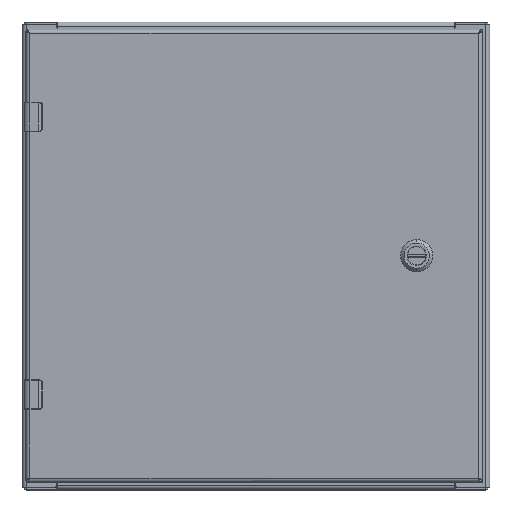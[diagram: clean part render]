
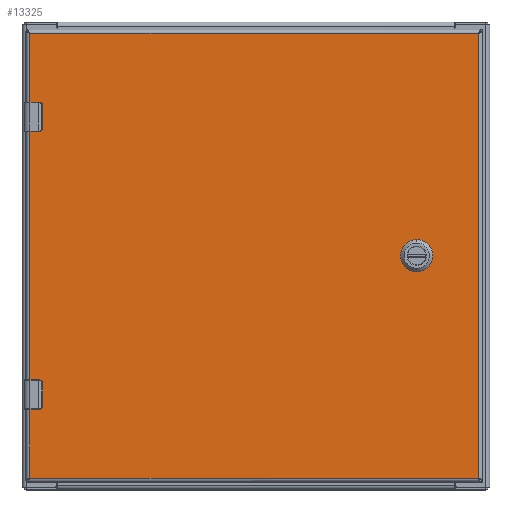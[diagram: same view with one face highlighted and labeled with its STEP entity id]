
A CAD part, top view. The second image highlights one B-rep face of the part: STEP entity #13325.
In plain terms, the highlighted planar face has unit normal (0, 0, 1).
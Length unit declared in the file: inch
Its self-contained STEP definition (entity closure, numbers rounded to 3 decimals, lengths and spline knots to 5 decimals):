
#10544=CARTESIAN_POINT('',(5.5625,0.,0.));
#10545=DIRECTION('',(0.,0.,1.));
#10546=DIRECTION('',(-0.448,0.894,0.));
#10547=AXIS2_PLACEMENT_3D('',#10544,#10545,#10546);
#10552=DIRECTION('',(0.,-1.,0.));
#10553=VECTOR('',#10552,0.39715);
#10554=CARTESIAN_POINT('',(5.1665,0.19858,0.));
#10555=LINE('',#10554,#10553);
#10559=CARTESIAN_POINT('',(5.5625,0.,0.));
#10560=DIRECTION('',(0.,0.,1.));
#10561=DIRECTION('',(-0.894,-0.448,0.));
#10562=AXIS2_PLACEMENT_3D('',#10559,#10560,#10561);
#10567=DIRECTION('',(1.,0.,0.));
#10568=VECTOR('',#10567,0.39715);
#10569=CARTESIAN_POINT('',(5.36392,-0.396,0.));
#10570=LINE('',#10569,#10568);
#10574=CARTESIAN_POINT('',(5.5625,0.,0.));
#10575=DIRECTION('',(0.,0.,1.));
#10576=DIRECTION('',(0.448,-0.894,0.));
#10577=AXIS2_PLACEMENT_3D('',#10574,#10575,#10576);
#10582=DIRECTION('',(0.,1.,0.));
#10583=VECTOR('',#10582,0.39715);
#10584=CARTESIAN_POINT('',(5.9585,-0.19858,0.));
#10585=LINE('',#10584,#10583);
#10589=CARTESIAN_POINT('',(5.5625,0.,0.));
#10590=DIRECTION('',(0.,0.,1.));
#10591=DIRECTION('',(0.894,0.448,0.));
#10592=AXIS2_PLACEMENT_3D('',#10589,#10590,#10591);
#10597=DIRECTION('',(-1.,0.,0.));
#10598=VECTOR('',#10597,0.39715);
#10599=CARTESIAN_POINT('',(5.76108,0.396,0.));
#10600=LINE('',#10599,#10598);
#10604=DIRECTION('',(1.,0.,0.));
#10605=VECTOR('',#10604,0.34892);
#10606=CARTESIAN_POINT('',(-7.6775,-5.095,0.));
#10607=LINE('',#10606,#10605);
#10611=DIRECTION('',(0.,1.,0.));
#10612=VECTOR('',#10611,0.63);
#10613=CARTESIAN_POINT('',(-7.29858,-5.065,0.));
#10614=LINE('',#10613,#10612);
#10618=DIRECTION('',(1.,0.,0.));
#10619=VECTOR('',#10618,0.34892);
#10620=CARTESIAN_POINT('',(-7.6775,-4.405,0.));
#10621=LINE('',#10620,#10619);
#10625=DIRECTION('',(1.,0.,0.));
#10626=VECTOR('',#10625,0.34892);
#10627=CARTESIAN_POINT('',(-7.6775,4.405,0.));
#10628=LINE('',#10627,#10626);
#10632=DIRECTION('',(0.,1.,0.));
#10633=VECTOR('',#10632,0.63);
#10634=CARTESIAN_POINT('',(-7.29858,4.435,0.));
#10635=LINE('',#10634,#10633);
#10639=DIRECTION('',(1.,0.,0.));
#10640=VECTOR('',#10639,0.34892);
#10641=CARTESIAN_POINT('',(-7.6775,5.095,0.));
#10642=LINE('',#10641,#10640);
#11101=CARTESIAN_POINT('',(-7.32858,-4.435,0.));
#11102=DIRECTION('',(0.,0.,-1.));
#11103=DIRECTION('',(0.,1.,0.));
#11104=AXIS2_PLACEMENT_3D('',#11101,#11102,#11103);
#11131=CARTESIAN_POINT('',(-7.32858,-5.065,0.));
#11132=DIRECTION('',(0.,0.,-1.));
#11133=DIRECTION('',(1.,0.,0.));
#11134=AXIS2_PLACEMENT_3D('',#11131,#11132,#11133);
#11184=DIRECTION('',(0.,1.,0.));
#11185=VECTOR('',#11184,8.81);
#11186=CARTESIAN_POINT('',(-7.6775,-4.405,0.));
#11187=LINE('',#11186,#11185);
#11213=DIRECTION('',(0.,1.,0.));
#11214=VECTOR('',#11213,2.52);
#11215=CARTESIAN_POINT('',(-7.6775,5.095,0.));
#11216=LINE('',#11215,#11214);
#11272=DIRECTION('',(0.,1.,0.));
#11273=VECTOR('',#11272,2.52);
#11274=CARTESIAN_POINT('',(-7.6775,-7.615,0.));
#11275=LINE('',#11274,#11273);
#11935=CARTESIAN_POINT('',(-7.32858,4.435,0.));
#11936=DIRECTION('',(0.,0.,-1.));
#11937=DIRECTION('',(1.,0.,0.));
#11938=AXIS2_PLACEMENT_3D('',#11935,#11936,#11937);
#11965=CARTESIAN_POINT('',(-7.32858,5.065,0.));
#11966=DIRECTION('',(0.,0.,-1.));
#11967=DIRECTION('',(0.,1.,0.));
#11968=AXIS2_PLACEMENT_3D('',#11965,#11966,#11967);
#12629=DIRECTION('',(-1.,0.,0.));
#12630=VECTOR('',#12629,15.355);
#12631=CARTESIAN_POINT('',(7.6775,-7.615,0.));
#12632=LINE('',#12631,#12630);
#12685=DIRECTION('',(0.,-1.,0.));
#12686=VECTOR('',#12685,15.23);
#12687=CARTESIAN_POINT('',(7.6775,7.615,0.));
#12688=LINE('',#12687,#12686);
#12830=DIRECTION('',(1.,0.,0.));
#12831=VECTOR('',#12830,15.355);
#12832=CARTESIAN_POINT('',(-7.6775,7.615,0.));
#12833=LINE('',#12832,#12831);
#12900=CARTESIAN_POINT('',(7.6775,7.615,0.));
#12901=CARTESIAN_POINT('',(7.6775,-7.615,0.));
#12902=VERTEX_POINT('',#12900);
#12903=VERTEX_POINT('',#12901);
#12988=CARTESIAN_POINT('',(5.36392,0.396,0.));
#12989=CARTESIAN_POINT('',(5.1665,0.19858,0.));
#12990=VERTEX_POINT('',#12988);
#12991=VERTEX_POINT('',#12989);
#12992=CARTESIAN_POINT('',(5.1665,-0.19858,0.));
#12993=VERTEX_POINT('',#12992);
#12994=CARTESIAN_POINT('',(5.36392,-0.396,0.));
#12995=VERTEX_POINT('',#12994);
#12996=CARTESIAN_POINT('',(5.76108,-0.396,0.));
#12997=VERTEX_POINT('',#12996);
#12998=CARTESIAN_POINT('',(5.9585,-0.19858,0.));
#12999=VERTEX_POINT('',#12998);
#13000=CARTESIAN_POINT('',(5.9585,0.19858,0.));
#13001=VERTEX_POINT('',#13000);
#13002=CARTESIAN_POINT('',(5.76108,0.396,0.));
#13003=VERTEX_POINT('',#13002);
#13093=CARTESIAN_POINT('',(-7.6775,7.615,0.));
#13095=VERTEX_POINT('',#13093);
#13100=CARTESIAN_POINT('',(-7.6775,-7.615,0.));
#13102=VERTEX_POINT('',#13100);
#13172=CARTESIAN_POINT('',(-7.6775,4.405,0.));
#13174=VERTEX_POINT('',#13172);
#13176=CARTESIAN_POINT('',(-7.6775,5.095,0.));
#13178=VERTEX_POINT('',#13176);
#13188=CARTESIAN_POINT('',(-7.6775,-5.095,0.));
#13190=VERTEX_POINT('',#13188);
#13192=CARTESIAN_POINT('',(-7.6775,-4.405,0.));
#13194=VERTEX_POINT('',#13192);
#13204=CARTESIAN_POINT('',(-7.32858,5.095,0.));
#13206=VERTEX_POINT('',#13204);
#13208=CARTESIAN_POINT('',(-7.29858,5.065,0.));
#13210=VERTEX_POINT('',#13208);
#13212=CARTESIAN_POINT('',(-7.29858,4.435,0.));
#13214=VERTEX_POINT('',#13212);
#13216=CARTESIAN_POINT('',(-7.32858,4.405,0.));
#13218=VERTEX_POINT('',#13216);
#13236=CARTESIAN_POINT('',(-7.32858,-4.405,0.));
#13238=VERTEX_POINT('',#13236);
#13240=CARTESIAN_POINT('',(-7.29858,-4.435,0.));
#13242=VERTEX_POINT('',#13240);
#13244=CARTESIAN_POINT('',(-7.29858,-5.065,0.));
#13246=VERTEX_POINT('',#13244);
#13248=CARTESIAN_POINT('',(-7.32858,-5.095,0.));
#13250=VERTEX_POINT('',#13248);
#13268=CARTESIAN_POINT('',(0.,0.,0.));
#13269=DIRECTION('',(0.,0.,-1.));
#13270=DIRECTION('',(1.,0.,0.));
#13271=AXIS2_PLACEMENT_3D('',#13268,#13269,#13270);
#13272=PLANE('',#13271);
#13274=ORIENTED_EDGE('',*,*,#13273,.T.);
#13276=ORIENTED_EDGE('',*,*,#13275,.T.);
#13278=ORIENTED_EDGE('',*,*,#13277,.T.);
#13280=ORIENTED_EDGE('',*,*,#13279,.F.);
#13282=ORIENTED_EDGE('',*,*,#13281,.T.);
#13284=ORIENTED_EDGE('',*,*,#13283,.F.);
#13286=ORIENTED_EDGE('',*,*,#13285,.F.);
#13288=ORIENTED_EDGE('',*,*,#13287,.T.);
#13290=ORIENTED_EDGE('',*,*,#13289,.T.);
#13292=ORIENTED_EDGE('',*,*,#13291,.F.);
#13294=ORIENTED_EDGE('',*,*,#13293,.T.);
#13296=ORIENTED_EDGE('',*,*,#13295,.F.);
#13298=ORIENTED_EDGE('',*,*,#13297,.F.);
#13300=ORIENTED_EDGE('',*,*,#13299,.T.);
#13302=ORIENTED_EDGE('',*,*,#13301,.T.);
#13304=ORIENTED_EDGE('',*,*,#13303,.T.);
#13305=EDGE_LOOP('',(#13274,#13276,#13278,#13280,#13282,#13284,#13286,#13288,
#13290,#13292,#13294,#13296,#13298,#13300,#13302,#13304));
#13306=FACE_OUTER_BOUND('',#13305,.F.);
#13308=ORIENTED_EDGE('',*,*,#13307,.T.);
#13310=ORIENTED_EDGE('',*,*,#13309,.T.);
#13312=ORIENTED_EDGE('',*,*,#13311,.T.);
#13314=ORIENTED_EDGE('',*,*,#13313,.T.);
#13316=ORIENTED_EDGE('',*,*,#13315,.T.);
#13318=ORIENTED_EDGE('',*,*,#13317,.T.);
#13320=ORIENTED_EDGE('',*,*,#13319,.T.);
#13322=ORIENTED_EDGE('',*,*,#13321,.T.);
#13323=EDGE_LOOP('',(#13308,#13310,#13312,#13314,#13316,#13318,#13320,#13322));
#13324=FACE_BOUND('',#13323,.F.);
#10548=CIRCLE('',#10547,0.443);
#10563=CIRCLE('',#10562,0.443);
#10578=CIRCLE('',#10577,0.443);
#10593=CIRCLE('',#10592,0.443);
#11105=CIRCLE('',#11104,0.03);
#11135=CIRCLE('',#11134,0.03);
#11939=CIRCLE('',#11938,0.03);
#11969=CIRCLE('',#11968,0.03);
#13273=EDGE_CURVE('',#12903,#13102,#12632,.T.);
#13275=EDGE_CURVE('',#13102,#13190,#11275,.T.);
#13277=EDGE_CURVE('',#13190,#13250,#10607,.T.);
#13279=EDGE_CURVE('',#13246,#13250,#11135,.T.);
#13281=EDGE_CURVE('',#13246,#13242,#10614,.T.);
#13283=EDGE_CURVE('',#13238,#13242,#11105,.T.);
#13285=EDGE_CURVE('',#13194,#13238,#10621,.T.);
#13287=EDGE_CURVE('',#13194,#13174,#11187,.T.);
#13289=EDGE_CURVE('',#13174,#13218,#10628,.T.);
#13291=EDGE_CURVE('',#13214,#13218,#11939,.T.);
#13293=EDGE_CURVE('',#13214,#13210,#10635,.T.);
#13295=EDGE_CURVE('',#13206,#13210,#11969,.T.);
#13297=EDGE_CURVE('',#13178,#13206,#10642,.T.);
#13299=EDGE_CURVE('',#13178,#13095,#11216,.T.);
#13301=EDGE_CURVE('',#13095,#12902,#12833,.T.);
#13303=EDGE_CURVE('',#12902,#12903,#12688,.T.);
#13307=EDGE_CURVE('',#12990,#12991,#10548,.T.);
#13309=EDGE_CURVE('',#12991,#12993,#10555,.T.);
#13311=EDGE_CURVE('',#12993,#12995,#10563,.T.);
#13313=EDGE_CURVE('',#12995,#12997,#10570,.T.);
#13315=EDGE_CURVE('',#12997,#12999,#10578,.T.);
#13317=EDGE_CURVE('',#12999,#13001,#10585,.T.);
#13319=EDGE_CURVE('',#13001,#13003,#10593,.T.);
#13321=EDGE_CURVE('',#13003,#12990,#10600,.T.);
#13325=ADVANCED_FACE('',(#13306,#13324),#13272,.F.);
